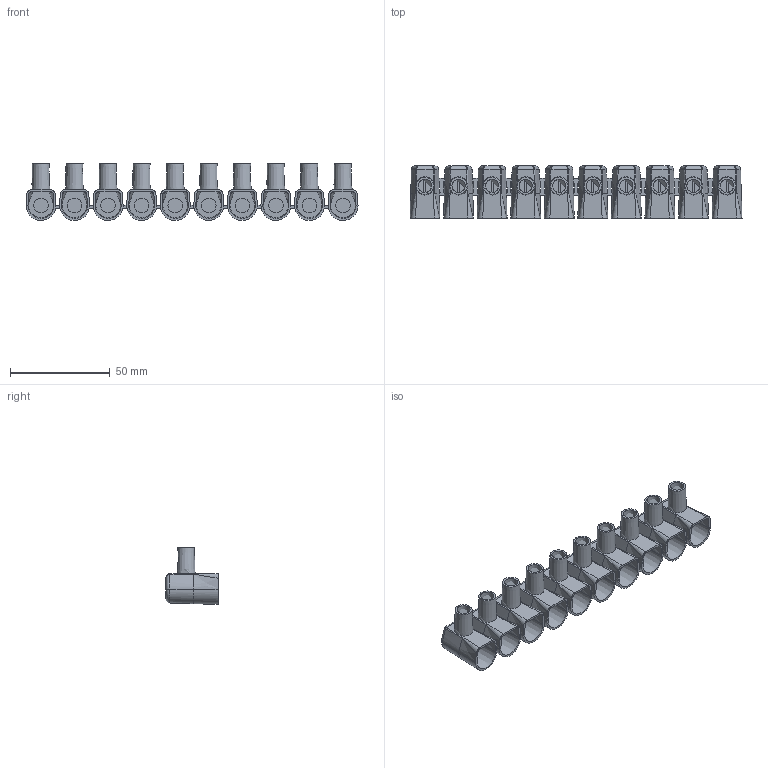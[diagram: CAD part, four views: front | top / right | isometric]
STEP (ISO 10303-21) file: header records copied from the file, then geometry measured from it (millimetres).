
FILE_DESCRIPTION(/* description */ ('Unknown'),/* implementation_level */ '2;1');
FILE_NAME(/* name */ 'MT 510',/* time_stamp */ '2021-10-08T09:37:15+02:00',/* author */ ('Unknown'),/* organization */ ('Unknown'),/* preprocessor_version */ 'ST-DEVELOPER v16.7',/* originating_system */ 'Solid Edge',/* authorisation */ 'Unknown');
FILE_SCHEMA (('AUTOMOTIVE_DESIGN {1 0 10303 214 3 1 1}'));
Length unit declared in the file: millimetre
Products named in the file (1): MT 510
Bounding box: 166.2 x 26.1 x 28.49 mm (x, y, z)
Volume: 30977.1 mm3; surface area: 29080.5 mm2
Topology: 1 solids, 1 shells, 460 faces, 1298 edges, 814 vertices
Faces by surface type: plane 220, bspline 200, cylinder 30, cone 10
Full cylindrical faces by diameter (mm): 6.6 x10, 7.3 x10
Entity records: 27749 total; most frequent: CARTESIAN_POINT 18154, ORIENTED_EDGE 2456, EDGE_CURVE 1228, DIRECTION 1163, VERTEX_POINT 794, B_SPLINE_CURVE_WITH_KNOTS 707, EDGE_LOOP 520, FACE_BOUND 520
